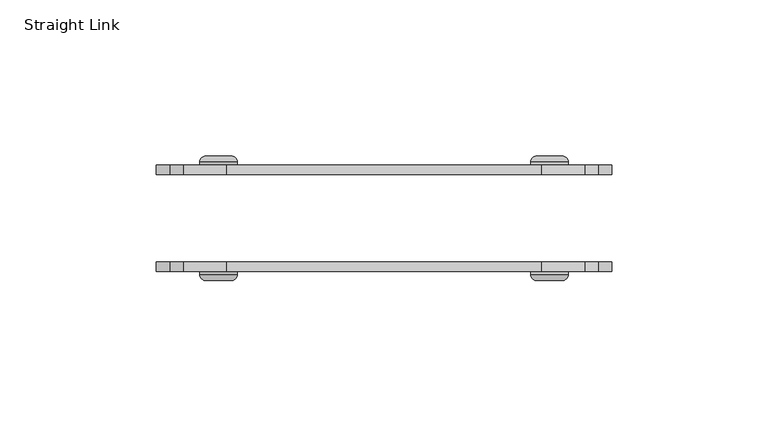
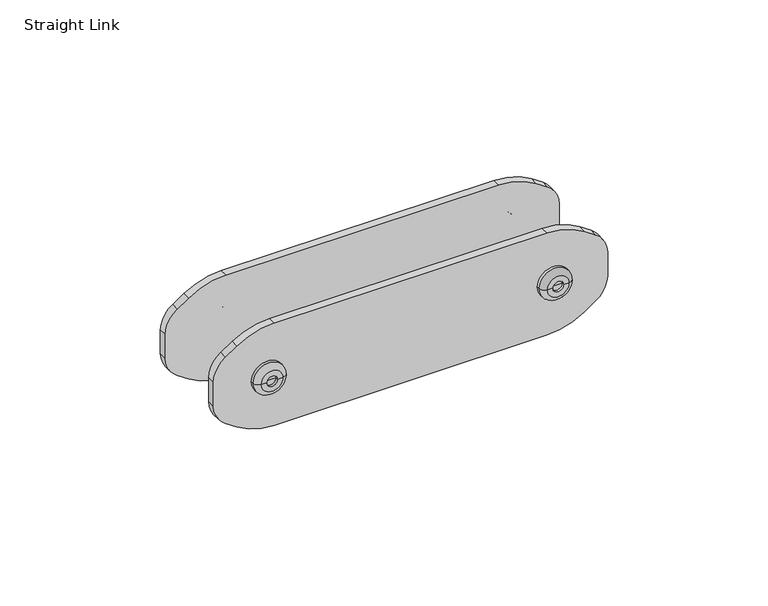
"""IFC4 building model written with IfcOpenShell, lengths in millimetres: furniture geometry, DBLTD_Sixteen3_PrivacyScreens_Artus_Bracket : Straight Link."""

from ifc_helpers import new_model, si_unit, point, frame, frame_2d, origin, place, context, project, spatial, polyline, circle_curve, ellipse_curve, trimmed, segment, composite_curve, outline, extrude, source, transform, mapped, element, save
from ifc_brep_helpers import plane_surface, cylinder_surface, revolved_surface, advanced_brep


def straight_link_6983c467(model_context):
    return source(origin(), model_context, "Body", "SolidModel", [
        advanced_brep(
        [(47.0, -803.0, 100.0), (47.0, -802.0141801, 100.0), (59.0, -802.0141801, 100.0), (59.0, -803.0, 100.0), (53.0, -803.0, 100.0), (51.0, -801.0, 100.0), (53.0, -801.0, 100.0), (55.0, -801.0, 100.0), (51.0, -800.0, 100.0), (55.0, -800.0, 100.0), (49.0141801, -800.0, 100.0), (56.9858199, -800.0, 100.0)],
        [
            (0, 1),
            (1, 2, circle_curve(frame((53.0, -802.0141801, 100.0), z_axis=(0.0, -1.0, 0.0), x_axis=(1.0, 0.0, 0.0)), 6.0)),
            (2, 3),
            (3, 0, circle_curve(frame((53.0, -803.0, 100.0), z_axis=(0.0, 1.0, 0.0), x_axis=(1.0, 0.0, 0.0)), 6.0)),
            (2, 1, circle_curve(frame((53.0, -802.0141801, 100.0), z_axis=(0.0, -1.0, 0.0), x_axis=(1.0, 0.0, 0.0)), 6.0)),
            (0, 3, circle_curve(frame((53.0, -803.0, 100.0), z_axis=(0.0, 1.0, 0.0), x_axis=(1.0, 0.0, 0.0)), 6.0)),
            (4, 0),
            (3, 4),
            (5, 6),
            (6, 7),
            (7, 5, circle_curve(frame((53.0, -801.0, 100.0), z_axis=(0.0, 1.0, 0.0), x_axis=(1.0, 0.0, 0.0)), 2.0)),
            (5, 7, circle_curve(frame((53.0, -801.0, 100.0), z_axis=(0.0, 1.0, 0.0), x_axis=(1.0, 0.0, 0.0)), 2.0)),
            (8, 5),
            (7, 9),
            (9, 8, circle_curve(frame((53.0, -800.0, 100.0), z_axis=(0.0, 1.0, 0.0), x_axis=(1.0, 0.0, 0.0)), 2.0)),
            (8, 9, circle_curve(frame((53.0, -800.0, 100.0), z_axis=(0.0, 1.0, 0.0), x_axis=(1.0, 0.0, 0.0)), 2.0)),
            (10, 8),
            (9, 11),
            (11, 10, circle_curve(frame((53.0, -800.0, 100.0), z_axis=(0.0, 1.0, 0.0), x_axis=(1.0, 0.0, 0.0)), 3.9858199)),
            (10, 11, circle_curve(frame((53.0, -800.0, 100.0), z_axis=(0.0, 1.0, 0.0), x_axis=(1.0, 0.0, 0.0)), 3.9858199)),
            (1, 10, circle_curve(frame((49.0141801, -802.0141801, 100.0), z_axis=(0.0, 0.0, -1.0), x_axis=(1.0, 0.0, 0.0)), 2.0141801)),
            (11, 2, circle_curve(frame((56.9858199, -802.0141801, 100.0), z_axis=(0.0, 0.0, -1.0), x_axis=(-1.0, 0.0, 0.0)), 2.0141801)),
        ],
        [
            cylinder_surface(frame((53.0, -801.575526, 100.0), z_axis=(0.0, -1.0, 0.0), x_axis=(1.0, 0.0, 0.0)), 6.0),
            plane_surface(frame((53.0, -803.0, 100.0), z_axis=(0.0, -1.0, 0.0), x_axis=(1.0, 0.0, 0.0))),
            plane_surface(frame((53.0, -801.0, 100.0), z_axis=(0.0, 1.0, 0.0), x_axis=(1.0, 0.0, 0.0))),
            revolved_surface(polyline([(55.0, -801.0, 100.0), (55.0, -800.0, 100.0)]), (53.0, -801.575526, 100.0), (0.0, -1.0, 0.0)),
            plane_surface(frame((53.0, -800.0, 100.0), z_axis=(0.0, 1.0, 0.0), x_axis=(1.0, 0.0, 0.0))),
            revolved_surface(trimmed(ellipse_curve(frame((56.9858199, -802.0141801, 100.0), z_axis=(0.0, 0.0, -1.0), x_axis=(-1.0, 0.0, 0.0)), 2.0141801, 2.0141801), [point((56.9858199, -800.0, 100.0))], [point((59.0, -802.0141801, 100.0))], True, "CARTESIAN"), (53.0, -801.575526, 100.0), (0.0, -1.0, 0.0)),
        ],
        [
            (0, [[1, 2, 3, 4]]),
            (0, [[-3, 5, -1, 6]]),
            (1, [[7, -4, 8]]),
            (1, [[-8, -6, -7]]),
            (2, [[9, 10, 11]]),
            (2, [[-10, -9, 12]]),
            (3, [[13, -11, 14, 15]]),
            (3, [[-14, -12, -13, 16]]),
            (4, [[17, -15, 18, 19]]),
            (4, [[-18, -16, -17, 20]]),
            (5, [[21, -19, 22, -2]]),
            (5, [[-22, -20, -21, -5]]),
        ],
    ),
        advanced_brep(
        [(47.0, -837.9858199, 100.0), (47.0, -837.0, 100.0), (59.0, -837.0, 100.0), (59.0, -837.9858199, 100.0), (53.0, -837.0, 100.0), (53.0, -839.0, 100.0), (51.0, -839.0, 100.0), (55.0, -839.0, 100.0), (51.0, -840.0, 100.0), (55.0, -840.0, 100.0), (49.0141801, -840.0, 100.0), (56.9858199, -840.0, 100.0)],
        [
            (0, 1),
            (1, 2, circle_curve(frame((53.0, -837.0, 100.0), z_axis=(0.0, -1.0, 0.0), x_axis=(1.0, 0.0, 0.0)), 6.0)),
            (2, 3),
            (3, 0, circle_curve(frame((53.0, -837.9858199, 100.0), z_axis=(0.0, 1.0, 0.0), x_axis=(1.0, 0.0, 0.0)), 6.0)),
            (2, 1, circle_curve(frame((53.0, -837.0, 100.0), z_axis=(0.0, -1.0, 0.0), x_axis=(1.0, 0.0, 0.0)), 6.0)),
            (0, 3, circle_curve(frame((53.0, -837.9858199, 100.0), z_axis=(0.0, 1.0, 0.0), x_axis=(1.0, 0.0, 0.0)), 6.0)),
            (1, 4),
            (4, 2),
            (5, 6),
            (6, 7, circle_curve(frame((53.0, -839.0, 100.0), z_axis=(0.0, -1.0, 0.0), x_axis=(1.0, 0.0, 0.0)), 2.0)),
            (7, 5),
            (7, 6, circle_curve(frame((53.0, -839.0, 100.0), z_axis=(0.0, -1.0, 0.0), x_axis=(1.0, 0.0, 0.0)), 2.0)),
            (6, 8),
            (8, 9, circle_curve(frame((53.0, -840.0, 100.0), z_axis=(0.0, -1.0, 0.0), x_axis=(1.0, 0.0, 0.0)), 2.0)),
            (9, 7),
            (9, 8, circle_curve(frame((53.0, -840.0, 100.0), z_axis=(0.0, -1.0, 0.0), x_axis=(1.0, 0.0, 0.0)), 2.0)),
            (8, 10),
            (10, 11, circle_curve(frame((53.0, -840.0, 100.0), z_axis=(0.0, -1.0, 0.0), x_axis=(1.0, 0.0, 0.0)), 3.9858199)),
            (11, 9),
            (11, 10, circle_curve(frame((53.0, -840.0, 100.0), z_axis=(0.0, -1.0, 0.0), x_axis=(1.0, 0.0, 0.0)), 3.9858199)),
            (10, 0, circle_curve(frame((49.0141801, -837.9858199, 100.0), z_axis=(0.0, 0.0, -1.0), x_axis=(1.0, 0.0, 0.0)), 2.0141801)),
            (3, 11, circle_curve(frame((56.9858199, -837.9858199, 100.0), z_axis=(0.0, 0.0, -1.0), x_axis=(-1.0, 0.0, 0.0)), 2.0141801)),
        ],
        [
            cylinder_surface(frame((53.0, -838.424474, 100.0), z_axis=(0.0, -1.0, 0.0), x_axis=(1.0, 0.0, 0.0)), 6.0),
            plane_surface(frame((53.0, -837.0, 100.0), z_axis=(0.0, 1.0, 0.0), x_axis=(1.0, 0.0, 0.0))),
            plane_surface(frame((53.0, -839.0, 100.0), z_axis=(0.0, -1.0, 0.0), x_axis=(1.0, 0.0, 0.0))),
            revolved_surface(polyline([(55.0, -840.0, 100.0), (55.0, -839.0, 100.0)]), (53.0, -838.424474, 100.0), (0.0, -1.0, 0.0)),
            plane_surface(frame((53.0, -840.0, 100.0), z_axis=(0.0, -1.0, 0.0), x_axis=(1.0, 0.0, 0.0))),
            revolved_surface(trimmed(ellipse_curve(frame((56.9858199, -837.9858199, 100.0), z_axis=(0.0, 0.0, -1.0), x_axis=(-1.0, 0.0, 0.0)), 2.0141801, 2.0141801), [point((59.0, -837.9858199, 100.0))], [point((56.9858199, -840.0, 100.0))], True, "CARTESIAN"), (53.0, -838.424474, 100.0), (0.0, -1.0, 0.0)),
        ],
        [
            (0, [[1, 2, 3, 4]]),
            (0, [[-3, 5, -1, 6]]),
            (1, [[7, 8, -2]]),
            (1, [[-8, -7, -5]]),
            (2, [[9, 10, 11]]),
            (2, [[-11, 12, -9]]),
            (3, [[13, 14, 15, -10]]),
            (3, [[-15, 16, -13, -12]]),
            (4, [[17, 18, 19, -14]]),
            (4, [[-19, 20, -17, -16]]),
            (5, [[21, -4, 22, -18]]),
            (5, [[-22, -6, -21, -20]]),
        ],
    ),
        advanced_brep(
        [(-47.0, -802.0141801, 100.0), (-47.0, -803.0, 100.0), (-59.0, -803.0, 100.0), (-59.0, -802.0141801, 100.0), (-53.0, -803.0, 100.0), (-53.0, -801.0, 100.0), (-51.0, -801.0, 100.0), (-55.0, -801.0, 100.0), (-51.0, -800.0, 100.0), (-55.0, -800.0, 100.0), (-49.0141801, -800.0, 100.0), (-56.9858199, -800.0, 100.0)],
        [
            (0, 1),
            (1, 2, circle_curve(frame((-53.0, -803.0, 100.0), z_axis=(0.0, 1.0, 0.0), x_axis=(-1.0, 0.0, 0.0)), 6.0)),
            (2, 3),
            (3, 0, circle_curve(frame((-53.0, -802.0141801, 100.0), z_axis=(0.0, -1.0, 0.0), x_axis=(-1.0, 0.0, 0.0)), 6.0)),
            (2, 1, circle_curve(frame((-53.0, -803.0, 100.0), z_axis=(0.0, 1.0, 0.0), x_axis=(-1.0, 0.0, 0.0)), 6.0)),
            (0, 3, circle_curve(frame((-53.0, -802.0141801, 100.0), z_axis=(0.0, -1.0, 0.0), x_axis=(-1.0, 0.0, 0.0)), 6.0)),
            (1, 4),
            (4, 2),
            (5, 6),
            (6, 7, circle_curve(frame((-53.0, -801.0, 100.0), z_axis=(0.0, 1.0, 0.0), x_axis=(-1.0, 0.0, 0.0)), 2.0)),
            (7, 5),
            (7, 6, circle_curve(frame((-53.0, -801.0, 100.0), z_axis=(0.0, 1.0, 0.0), x_axis=(-1.0, 0.0, 0.0)), 2.0)),
            (6, 8),
            (8, 9, circle_curve(frame((-53.0, -800.0, 100.0), z_axis=(0.0, 1.0, 0.0), x_axis=(-1.0, 0.0, 0.0)), 2.0)),
            (9, 7),
            (9, 8, circle_curve(frame((-53.0, -800.0, 100.0), z_axis=(0.0, 1.0, 0.0), x_axis=(-1.0, 0.0, 0.0)), 2.0)),
            (8, 10),
            (10, 11, circle_curve(frame((-53.0, -800.0, 100.0), z_axis=(0.0, 1.0, 0.0), x_axis=(-1.0, 0.0, 0.0)), 3.9858199)),
            (11, 9),
            (11, 10, circle_curve(frame((-53.0, -800.0, 100.0), z_axis=(0.0, 1.0, 0.0), x_axis=(-1.0, 0.0, 0.0)), 3.9858199)),
            (10, 0, circle_curve(frame((-49.0141801, -802.0141801, 100.0), z_axis=(0.0, 0.0, -1.0), x_axis=(-1.0, 0.0, 0.0)), 2.0141801)),
            (3, 11, circle_curve(frame((-56.9858199, -802.0141801, 100.0), z_axis=(0.0, 0.0, -1.0), x_axis=(1.0, 0.0, 0.0)), 2.0141801)),
        ],
        [
            cylinder_surface(frame((-53.0, -801.575526, 100.0), z_axis=(0.0, 1.0, 0.0), x_axis=(-1.0, 0.0, 0.0)), 6.0),
            plane_surface(frame((-53.0, -803.0, 100.0), z_axis=(0.0, -1.0, 0.0), x_axis=(-1.0, 0.0, 0.0))),
            plane_surface(frame((-53.0, -801.0, 100.0), z_axis=(0.0, 1.0, 0.0), x_axis=(-1.0, 0.0, 0.0))),
            revolved_surface(polyline([(-55.0, -800.0, 100.0), (-55.0, -801.0, 100.0)]), (-53.0, -801.575526, 100.0), (0.0, 1.0, 0.0)),
            plane_surface(frame((-53.0, -800.0, 100.0), z_axis=(0.0, 1.0, 0.0), x_axis=(-1.0, 0.0, 0.0))),
            revolved_surface(trimmed(ellipse_curve(frame((-56.9858199, -802.0141801, 100.0), z_axis=(0.0, 0.0, -1.0), x_axis=(1.0, 0.0, 0.0)), 2.0141801, 2.0141801), [point((-59.0, -802.0141801, 100.0))], [point((-56.9858199, -800.0, 100.0))], True, "CARTESIAN"), (-53.0, -801.575526, 100.0), (0.0, 1.0, 0.0)),
        ],
        [
            (0, [[1, 2, 3, 4]]),
            (0, [[-3, 5, -1, 6]]),
            (1, [[7, 8, -2]]),
            (1, [[-8, -7, -5]]),
            (2, [[9, 10, 11]]),
            (2, [[-11, 12, -9]]),
            (3, [[13, 14, 15, -10]]),
            (3, [[-15, 16, -13, -12]]),
            (4, [[17, 18, 19, -14]]),
            (4, [[-19, 20, -17, -16]]),
            (5, [[21, -4, 22, -18]]),
            (5, [[-22, -6, -21, -20]]),
        ],
    ),
        advanced_brep(
        [(-47.0, -837.0, 100.0), (-47.0, -837.9858199, 100.0), (-59.0, -837.9858199, 100.0), (-59.0, -837.0, 100.0), (-53.0, -837.0, 100.0), (-51.0, -839.0, 100.0), (-53.0, -839.0, 100.0), (-55.0, -839.0, 100.0), (-51.0, -840.0, 100.0), (-55.0, -840.0, 100.0), (-49.0141801, -840.0, 100.0), (-56.9858199, -840.0, 100.0)],
        [
            (0, 1),
            (1, 2, circle_curve(frame((-53.0, -837.9858199, 100.0), z_axis=(0.0, 1.0, 0.0), x_axis=(-1.0, 0.0, 0.0)), 6.0)),
            (2, 3),
            (3, 0, circle_curve(frame((-53.0, -837.0, 100.0), z_axis=(0.0, -1.0, 0.0), x_axis=(-1.0, 0.0, 0.0)), 6.0)),
            (2, 1, circle_curve(frame((-53.0, -837.9858199, 100.0), z_axis=(0.0, 1.0, 0.0), x_axis=(-1.0, 0.0, 0.0)), 6.0)),
            (0, 3, circle_curve(frame((-53.0, -837.0, 100.0), z_axis=(0.0, -1.0, 0.0), x_axis=(-1.0, 0.0, 0.0)), 6.0)),
            (4, 0),
            (3, 4),
            (5, 6),
            (6, 7),
            (7, 5, circle_curve(frame((-53.0, -839.0, 100.0), z_axis=(0.0, -1.0, 0.0), x_axis=(-1.0, 0.0, 0.0)), 2.0)),
            (5, 7, circle_curve(frame((-53.0, -839.0, 100.0), z_axis=(0.0, -1.0, 0.0), x_axis=(-1.0, 0.0, 0.0)), 2.0)),
            (8, 5),
            (7, 9),
            (9, 8, circle_curve(frame((-53.0, -840.0, 100.0), z_axis=(0.0, -1.0, 0.0), x_axis=(-1.0, 0.0, 0.0)), 2.0)),
            (8, 9, circle_curve(frame((-53.0, -840.0, 100.0), z_axis=(0.0, -1.0, 0.0), x_axis=(-1.0, 0.0, 0.0)), 2.0)),
            (10, 8),
            (9, 11),
            (11, 10, circle_curve(frame((-53.0, -840.0, 100.0), z_axis=(0.0, -1.0, 0.0), x_axis=(-1.0, 0.0, 0.0)), 3.9858199)),
            (10, 11, circle_curve(frame((-53.0, -840.0, 100.0), z_axis=(0.0, -1.0, 0.0), x_axis=(-1.0, 0.0, 0.0)), 3.9858199)),
            (1, 10, circle_curve(frame((-49.0141801, -837.9858199, 100.0), z_axis=(0.0, 0.0, -1.0), x_axis=(-1.0, 0.0, 0.0)), 2.0141801)),
            (11, 2, circle_curve(frame((-56.9858199, -837.9858199, 100.0), z_axis=(0.0, 0.0, -1.0), x_axis=(1.0, 0.0, 0.0)), 2.0141801)),
        ],
        [
            cylinder_surface(frame((-53.0, -838.424474, 100.0), z_axis=(0.0, 1.0, 0.0), x_axis=(-1.0, 0.0, 0.0)), 6.0),
            plane_surface(frame((-53.0, -837.0, 100.0), z_axis=(0.0, 1.0, 0.0), x_axis=(-1.0, 0.0, 0.0))),
            plane_surface(frame((-53.0, -839.0, 100.0), z_axis=(0.0, -1.0, 0.0), x_axis=(-1.0, 0.0, 0.0))),
            revolved_surface(polyline([(-55.0, -839.0, 100.0), (-55.0, -840.0, 100.0)]), (-53.0, -838.424474, 100.0), (0.0, 1.0, 0.0)),
            plane_surface(frame((-53.0, -840.0, 100.0), z_axis=(0.0, -1.0, 0.0), x_axis=(-1.0, 0.0, 0.0))),
            revolved_surface(trimmed(ellipse_curve(frame((-56.9858199, -837.9858199, 100.0), z_axis=(0.0, 0.0, -1.0), x_axis=(1.0, 0.0, 0.0)), 2.0141801, 2.0141801), [point((-56.9858199, -840.0, 100.0))], [point((-59.0, -837.9858199, 100.0))], True, "CARTESIAN"), (-53.0, -838.424474, 100.0), (0.0, 1.0, 0.0)),
        ],
        [
            (0, [[1, 2, 3, 4]]),
            (0, [[-3, 5, -1, 6]]),
            (1, [[7, -4, 8]]),
            (1, [[-8, -6, -7]]),
            (2, [[9, 10, 11]]),
            (2, [[-10, -9, 12]]),
            (3, [[13, -11, 14, 15]]),
            (3, [[-14, -12, -13, 16]]),
            (4, [[17, -15, 18, 19]]),
            (4, [[-18, -16, -17, 20]]),
            (5, [[21, -19, 22, -2]]),
            (5, [[-22, -20, -21, -5]]),
        ],
    ),
        extrude(outline(composite_curve([segment(trimmed(circle_curve(frame_2d((95.0, -50.4306091)), 25.0), [point((120.0, -50.4306091))], [point((115.8012574, -64.298114))], False, "CARTESIAN"), True, "CONTINUOUS"), segment(polyline([(115.8012574, -64.298114), (112.9686654, -68.547002)]), True, "CONTINUOUS"), segment(trimmed(circle_curve(frame_2d((104.6481624, -63.0)), 10.0), [point((112.9686654, -68.547002))], [point((104.6481624, -73.0))], False, "CARTESIAN"), True, "CONTINUOUS"), segment(polyline([(104.6481624, -73.0), (95.3518376, -73.0)]), True, "CONTINUOUS"), segment(trimmed(circle_curve(frame_2d((95.3518376, -63.0)), 10.0), [point((95.3518376, -73.0))], [point((87.0313346, -68.547002))], False, "CARTESIAN"), True, "CONTINUOUS"), segment(polyline([(87.0313346, -68.547002), (84.1987426, -64.298114)]), True, "CONTINUOUS"), segment(trimmed(circle_curve(frame_2d((105.0, -50.4306091)), 25.0), [point((84.1987426, -64.298114))], [point((80.0, -50.4306091))], False, "CARTESIAN"), True, "CONTINUOUS"), segment(polyline([(80.0, -50.4306091), (80.0, 50.4306091)]), True, "CONTINUOUS"), segment(trimmed(circle_curve(frame_2d((105.0, 50.4306091)), 25.0), [point((80.0, 50.4306091))], [point((84.1987426, 64.298114))], False, "CARTESIAN"), True, "CONTINUOUS"), segment(polyline([(84.1987426, 64.298114), (87.0313346, 68.547002)]), True, "CONTINUOUS"), segment(trimmed(circle_curve(frame_2d((95.3518376, 63.0)), 10.0), [point((87.0313346, 68.547002))], [point((95.3518376, 73.0))], False, "CARTESIAN"), True, "CONTINUOUS"), segment(polyline([(95.3518376, 73.0), (104.6481624, 73.0)]), True, "CONTINUOUS"), segment(trimmed(circle_curve(frame_2d((104.6481624, 63.0)), 10.0), [point((104.6481624, 73.0))], [point((112.9686654, 68.547002))], False, "CARTESIAN"), True, "CONTINUOUS"), segment(polyline([(112.9686654, 68.547002), (115.8012574, 64.298114)]), True, "CONTINUOUS"), segment(trimmed(circle_curve(frame_2d((95.0, 50.4306091)), 25.0), [point((115.8012574, 64.298114))], [point((120.0, 50.4306091))], False, "CARTESIAN"), True, "CONTINUOUS"), segment(polyline([(120.0, 50.4306091), (120.0, -50.4306091)]), True, "CONTINUOUS")], self_intersect=False)), frame((0.0, -806.0, 0.0), z_axis=(0.0, 1.0, 0.0), x_axis=(0.0, 0.0, 1.0)), (0.0, 0.0, 1.0), 3.0),
        extrude(outline(composite_curve([segment(trimmed(circle_curve(frame_2d((95.0, -50.4306091)), 25.0), [point((120.0, -50.4306091))], [point((115.8012574, -64.298114))], False, "CARTESIAN"), True, "CONTINUOUS"), segment(polyline([(115.8012574, -64.298114), (112.9686654, -68.547002)]), True, "CONTINUOUS"), segment(trimmed(circle_curve(frame_2d((104.6481624, -63.0)), 10.0), [point((112.9686654, -68.547002))], [point((104.6481624, -73.0))], False, "CARTESIAN"), True, "CONTINUOUS"), segment(polyline([(104.6481624, -73.0), (95.3518376, -73.0)]), True, "CONTINUOUS"), segment(trimmed(circle_curve(frame_2d((95.3518376, -63.0)), 10.0), [point((95.3518376, -73.0))], [point((87.0313346, -68.547002))], False, "CARTESIAN"), True, "CONTINUOUS"), segment(polyline([(87.0313346, -68.547002), (84.1987426, -64.298114)]), True, "CONTINUOUS"), segment(trimmed(circle_curve(frame_2d((105.0, -50.4306091)), 25.0), [point((84.1987426, -64.298114))], [point((80.0, -50.4306091))], False, "CARTESIAN"), True, "CONTINUOUS"), segment(polyline([(80.0, -50.4306091), (80.0, 50.4306091)]), True, "CONTINUOUS"), segment(trimmed(circle_curve(frame_2d((105.0, 50.4306091)), 25.0), [point((80.0, 50.4306091))], [point((84.1987426, 64.298114))], False, "CARTESIAN"), True, "CONTINUOUS"), segment(polyline([(84.1987426, 64.298114), (87.0313346, 68.547002)]), True, "CONTINUOUS"), segment(trimmed(circle_curve(frame_2d((95.3518376, 63.0)), 10.0), [point((87.0313346, 68.547002))], [point((95.3518376, 73.0))], False, "CARTESIAN"), True, "CONTINUOUS"), segment(polyline([(95.3518376, 73.0), (104.6481624, 73.0)]), True, "CONTINUOUS"), segment(trimmed(circle_curve(frame_2d((104.6481624, 63.0)), 10.0), [point((104.6481624, 73.0))], [point((112.9686654, 68.547002))], False, "CARTESIAN"), True, "CONTINUOUS"), segment(polyline([(112.9686654, 68.547002), (115.8012574, 64.298114)]), True, "CONTINUOUS"), segment(trimmed(circle_curve(frame_2d((95.0, 50.4306091)), 25.0), [point((115.8012574, 64.298114))], [point((120.0, 50.4306091))], False, "CARTESIAN"), True, "CONTINUOUS"), segment(polyline([(120.0, 50.4306091), (120.0, -50.4306091)]), True, "CONTINUOUS")], self_intersect=False)), frame((0.0, -837.0, 0.0), z_axis=(0.0, 1.0, 0.0), x_axis=(0.0, 0.0, 1.0)), (0.0, 0.0, 1.0), 3.0),
    ])


if __name__ == "__main__":
    model = new_model("IFC4")
    model_context = context("Model", 3, world=origin())
    ifc_project = project(units=[si_unit("LENGTHUNIT", "METRE", prefix="MILLI")], contexts=[model_context])
    site = spatial("IfcSite", under=ifc_project)
    building = spatial("IfcBuilding", under=site)
    placement = place(None, origin())
    straight_link_shape = straight_link_6983c467(model_context)
    element("IfcFurniture", 1, ObjectType="DBLTD_Sixteen3_PrivacyScreens_Artus_Bracket : Straight Link", at=placement, inside=building, context=model_context, shape_type="MappedRepresentation", body=[
        mapped(straight_link_shape, transform((0.0, 0.0, 0.0), x_axis=(1.0, 0.0, 0.0), y_axis=(0.0, 1.0, 0.0), z_axis=(0.0, 0.0, 1.0))),
    ])
    save(model, "model.ifc")
